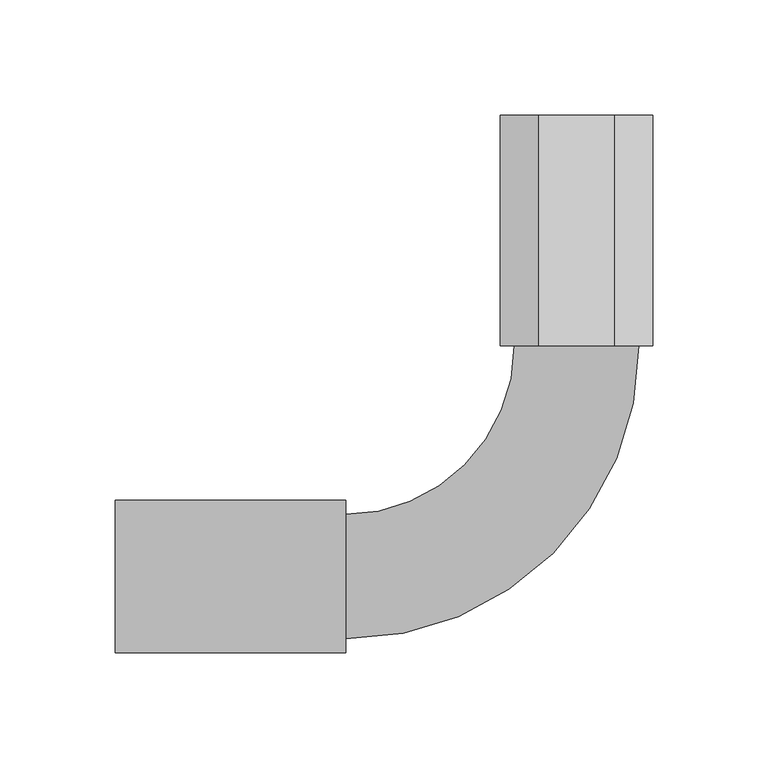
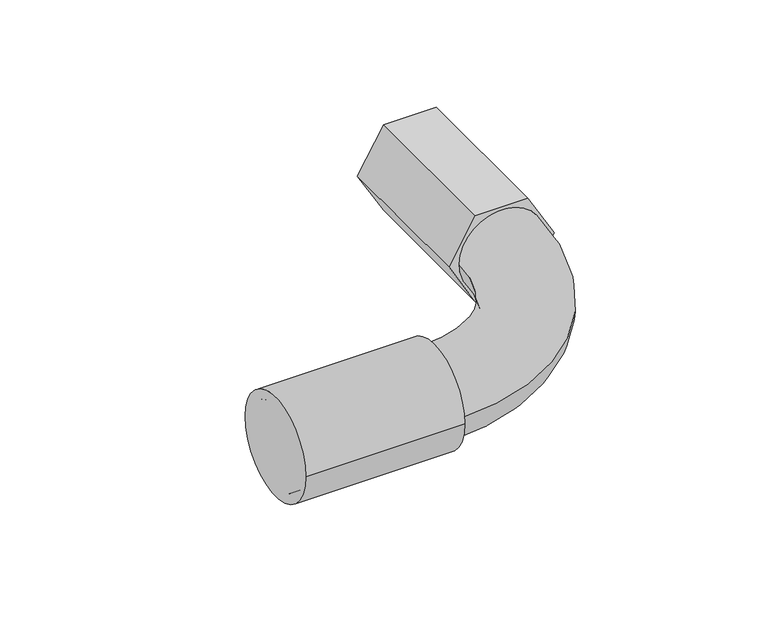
"""IFC4 building model written with IfcOpenShell, lengths in millimetres: cable carrier fitting geometry, Муфта_гибкая_труба-труба_IP44 : Муфта гибкая труба-труба D50мм."""

from ifc_helpers import new_model, si_unit, point, frame, origin, origin_2d, place, context, project, spatial, polyline, circle_curve, ellipse_curve, trimmed, segment, composite_curve, outline, extrude, source, transform, mapped, element, save
from ifc_brep_helpers import plane_surface, cylinder_surface, revolved_surface, advanced_brep


def cable_carrier_fitting_49e6a4dd(model_context):
    return source(origin(), model_context, "Body", "SolidModel", [
        extrude(outline(composite_curve([segment(trimmed(circle_curve(origin_2d(), 33.0), [point((-33.0, 0.0))], [point((33.0, 0.0))], False, "CARTESIAN"), True, "CONTINUOUS"), segment(trimmed(circle_curve(origin_2d(), 33.0), [point((33.0, 0.0))], [point((-33.0, 0.0))], False, "CARTESIAN"), True, "CONTINUOUS")], self_intersect=False)), frame((-200.0, 0.0, 0.0), z_axis=(1.0, 0.0, 0.0), x_axis=(0.0, 1.0, 0.0)), (0.0, 0.0, 1.0), 100.0),
        extrude(outline(polyline([(-28.5788383, 16.5), (0.0, 33.0), (28.5788383, 16.5), (28.5788383, -16.5), (0.0, -33.0), (-28.5788383, -16.5), (-28.5788383, 16.5)])), frame((0.0, 100.0, 0.0), z_axis=(0.0, 1.0, 0.0), x_axis=(0.0, 0.0, 1.0)), (0.0, 0.0, 1.0), 100.0),
        advanced_brep(
        [(-200.0, -27.0, 0.0), (-200.0, 27.0, 0.0), (-100.0, -27.0, 0.0), (-100.0, 27.0, 0.0), (-27.0, 100.0, 0.0), (27.0, 100.0, 0.0), (27.0, 200.0, 0.0), (-27.0, 200.0, 0.0)],
        [
            (0, 1, circle_curve(frame((-200.0, 0.0, 0.0), z_axis=(-1.0, 0.0, 0.0), x_axis=(0.0, 1.0, 0.0)), 27.0)),
            (1, 0, circle_curve(frame((-200.0, 0.0, 0.0), z_axis=(-1.0, 0.0, 0.0), x_axis=(0.0, 1.0, 0.0)), 27.0)),
            (0, 2),
            (2, 3, circle_curve(frame((-100.0, 0.0, 0.0), z_axis=(-1.0, 0.0, 0.0), x_axis=(0.0, 1.0, 0.0)), 27.0)),
            (3, 1),
            (3, 2, circle_curve(frame((-100.0, 0.0, 0.0), z_axis=(-1.0, 0.0, 0.0), x_axis=(0.0, 1.0, 0.0)), 27.0)),
            (4, 3, circle_curve(frame((-100.0, 100.0, 0.0), z_axis=(0.0, 0.0, -1.0), x_axis=(0.0, -1.0, 0.0)), 73.0)),
            (2, 5, circle_curve(frame((-100.0, 100.0, 0.0), z_axis=(0.0, 0.0, 1.0), x_axis=(0.0, -1.0, 0.0)), 127.0)),
            (5, 4, circle_curve(frame((0.0, 100.0, 0.0), z_axis=(0.0, -1.0, 0.0), x_axis=(-1.0, 0.0, 0.0)), 27.0)),
            (4, 5, circle_curve(frame((0.0, 100.0, 0.0), z_axis=(0.0, -1.0, 0.0), x_axis=(-1.0, 0.0, 0.0)), 27.0)),
            (6, 7, circle_curve(frame((0.0, 200.0, 0.0), z_axis=(0.0, 1.0, 0.0), x_axis=(-1.0, 0.0, 0.0)), 27.0)),
            (7, 6, circle_curve(frame((0.0, 200.0, 0.0), z_axis=(0.0, 1.0, 0.0), x_axis=(-1.0, 0.0, 0.0)), 27.0)),
            (5, 6),
            (7, 4),
        ],
        [
            plane_surface(frame((-200.0, 0.0, 0.0), z_axis=(-1.0, 0.0, 0.0), x_axis=(0.0, 0.0, 1.0))),
            cylinder_surface(frame((-200.0, 0.0, 0.0), z_axis=(-1.0, 0.0, 0.0), x_axis=(0.0, 1.0, 0.0)), 27.0),
            revolved_surface(trimmed(ellipse_curve(frame((-100.0, 0.0, 0.0), z_axis=(-1.0, 0.0, 0.0), x_axis=(0.0, 1.0, 0.0)), 27.0, 27.0), [point((-100.0, -27.0, 0.0))], [point((-100.0, 27.0, 0.0))], True, "CARTESIAN"), (-100.0, 100.0, 0.0), (0.0, 0.0, 1.0)),
            revolved_surface(trimmed(ellipse_curve(frame((-100.0, 0.0, 0.0), z_axis=(-1.0, 0.0, 0.0), x_axis=(0.0, 1.0, 0.0)), 27.0, 27.0), [point((-100.0, 27.0, 0.0))], [point((-100.0, -27.0, 0.0))], True, "CARTESIAN"), (-100.0, 100.0, 0.0), (0.0, 0.0, 1.0)),
            plane_surface(frame((0.0, 200.0, 0.0), z_axis=(0.0, 1.0, 0.0), x_axis=(0.0, 0.0, 1.0))),
            cylinder_surface(frame((0.0, 100.0, 0.0), z_axis=(0.0, -1.0, 0.0), x_axis=(-1.0, 0.0, 0.0)), 27.0),
        ],
        [
            (0, [[1, 2]]),
            (1, [[-1, 3, 4, 5]]),
            (1, [[-2, -5, 6, -3]]),
            (2, [[7, -4, 8, 9]]),
            (3, [[-8, -6, -7, 10]]),
            (4, [[11, 12]]),
            (5, [[-9, 13, -12, 14]]),
            (5, [[-10, -14, -11, -13]]),
        ],
    ),
    ])


if __name__ == "__main__":
    model = new_model("IFC4")
    model_context = context("Model", 3, world=origin())
    ifc_project = project(units=[si_unit("LENGTHUNIT", "METRE", prefix="MILLI")], contexts=[model_context])
    site = spatial("IfcSite", under=ifc_project)
    building = spatial("IfcBuilding", under=site)
    placement = place(None, origin())
    cable_carrier_fitting_shape = cable_carrier_fitting_49e6a4dd(model_context)
    element("IfcCableCarrierFitting", 1, ObjectType="Муфта_гибкая_труба-труба_IP44 : Муфта гибкая труба-труба D50мм", at=placement, inside=building, context=model_context, shape_type="MappedRepresentation", body=[
        mapped(cable_carrier_fitting_shape, transform((0.0, 0.0, 0.0), x_axis=(1.0, 0.0, 0.0), y_axis=(0.0, 1.0, 0.0), z_axis=(0.0, 0.0, 1.0))),
    ])
    save(model, "model.ifc")
